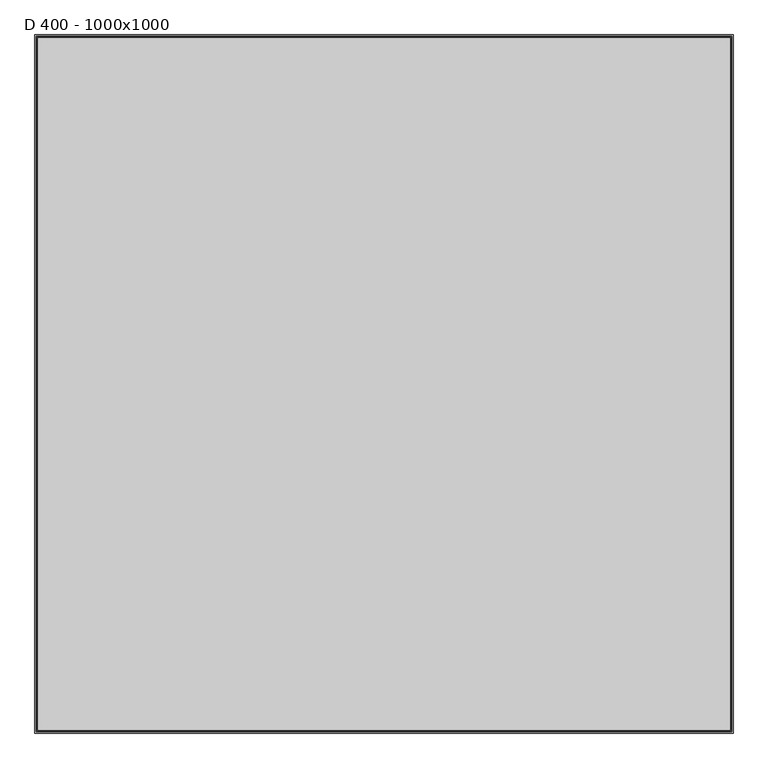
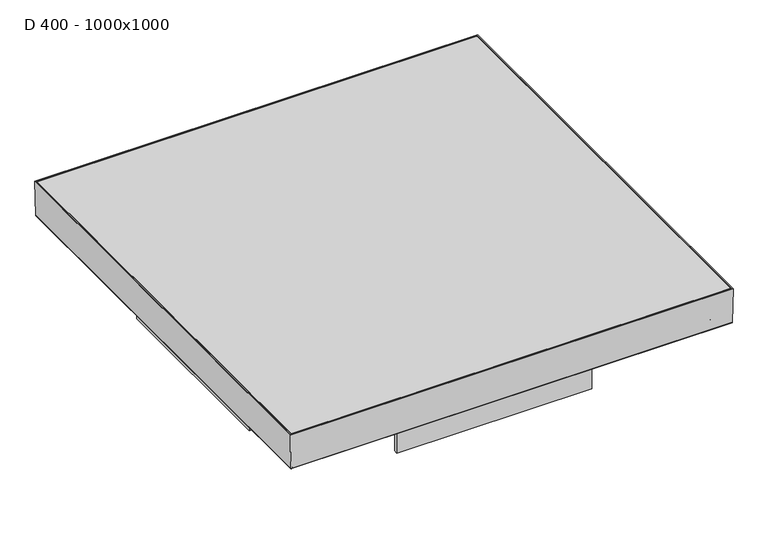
"""IFC4 building model written with IfcOpenShell, lengths in millimetres: proxy geometry, ME_ST_WPB_Access Cover PAVING GS 80_ACO : D 400 - 1000x1000."""

import ifcopenshell
import ifcopenshell.guid

model = None  # the IFC model being written
_history = None  # IfcOwnerHistory: only IFC2X3 demands one
_inside = {}  # id of a spatial element -> (the spatial element, [elements in it])
_under = {}  # id of a project, library or spatial element -> (it, [spatial elements below it])
_declared = {}  # id of a project -> (the project, [libraries it declares])
_typed = {}  # id of a type object -> (the type object, [elements of that type])
_made_of = {}  # id of a material, layer set ... -> (it, [elements and type objects made of it])


def new_model(schema):
    """Start an empty IFC model of exactly this schema.

    Asked for "IFC4X3", IfcOpenShell would pick the latest addendum, in which some entities
    have other attributes; the version numbers below select the first issue.
    IFC2X3 requires an IfcOwnerHistory on every rooted entity: one is made here for all.
    """
    global model, _history
    if schema == "IFC4X3":
        model = ifcopenshell.file(schema_version=(4, 3, 0, 0))
    else:
        model = ifcopenshell.file(schema=schema)
    _inside.clear()
    _under.clear()
    _declared.clear()
    _typed.clear()
    _made_of.clear()
    _history = None
    if model.schema == "IFC2X3":
        org = make("IfcOrganization", Name="unknown")
        user = make(
            "IfcPersonAndOrganization",
            ThePerson=make("IfcPerson", FamilyName="unknown"),
            TheOrganization=org,
        )
        app = make(
            "IfcApplication",
            ApplicationDeveloper=org,
            Version="unknown",
            ApplicationFullName="unknown",
            ApplicationIdentifier="unknown",
        )
        _history = make(
            "IfcOwnerHistory",
            OwningUser=user,
            OwningApplication=app,
            ChangeAction="ADDED",
            CreationDate=0,
        )
    return model


def make(cls, **values):
    """One entity of the class cls with the attributes given. An attribute that is None is left unset."""
    return model.create_entity(
        cls, **{name: value for name, value in values.items() if value is not None}
    )


def rooted(cls, **values):
    """An entity with a GlobalId (a new one), such as an element, a storey or a relation."""
    return make(cls, GlobalId=ifcopenshell.guid.new(), OwnerHistory=_history, **values)


def si_unit(unit_type, name, prefix=None):
    """IfcSIUnit, for example si_unit("LENGTHUNIT", "METRE", prefix="MILLI")."""
    return make("IfcSIUnit", UnitType=unit_type, Prefix=prefix, Name=name)


def assignment(units):
    """IfcUnitAssignment: the units of a project."""
    return None if units is None else make("IfcUnitAssignment", Units=units)


def point(xyz):
    """IfcCartesianPoint."""
    return None if xyz is None else make("IfcCartesianPoint", Coordinates=xyz)


def direction(xyz):
    """IfcDirection."""
    return None if xyz is None else make("IfcDirection", DirectionRatios=xyz)


def frame(location, z_axis=None, x_axis=None):
    """IfcAxis2Placement3D, a coordinate frame: its origin and axes. An axis left out is left unset."""
    return make(
        "IfcAxis2Placement3D",
        Location=point(location),
        Axis=direction(z_axis),
        RefDirection=direction(x_axis),
    )


def origin():
    """The frame at (0, 0, 0) with its axes left unset."""
    return frame((0.0, 0.0, 0.0))


def place(relative_to, where):
    """IfcLocalPlacement: puts the frame where relative to a parent placement (None: the world)."""
    return make(
        "IfcLocalPlacement", PlacementRelTo=relative_to, RelativePlacement=where
    )


def context(
    kind, dimensions, precision=None, world=None, true_north=None, identifier=None
):
    """IfcGeometricRepresentationContext, for example the 3D "Model" context."""
    return make(
        "IfcGeometricRepresentationContext",
        ContextIdentifier=identifier,
        ContextType=kind,
        CoordinateSpaceDimension=dimensions,
        Precision=precision,
        WorldCoordinateSystem=world,
        TrueNorth=true_north,
    )


def project(units=None, contexts=None):
    """IfcProject with its units and contexts."""
    return rooted(
        "IfcProject",
        Name="project",
        RepresentationContexts=contexts,
        UnitsInContext=assignment(units),
    )


def spatial(cls, under=None, at=None, **own):
    """A site, building, storey or space (cls), placed at a placement, below another one or the project."""
    s = rooted(cls, ObjectPlacement=at, **own)
    if under is not None:
        _under.setdefault(under.id(), (under, []))[1].append(s)
    return s


def polyline(points):
    """IfcPolyline through the points."""
    return make("IfcPolyline", Points=[point(p) for p in points])


def ellipse_curve(where, semi_axis1, semi_axis2):
    """IfcEllipse in the frame where."""
    return make(
        "IfcEllipse", Position=where, SemiAxis1=semi_axis1, SemiAxis2=semi_axis2
    )


def outline(outer, holes=None, kind="AREA"):
    """IfcArbitraryClosedProfileDef: a profile drawn as a closed curve; with holes, ...WithVoids."""
    if holes is None:
        return make("IfcArbitraryClosedProfileDef", ProfileType=kind, OuterCurve=outer)
    return make(
        "IfcArbitraryProfileDefWithVoids",
        ProfileType=kind,
        OuterCurve=outer,
        InnerCurves=holes,
    )


def extrude(swept, where, along, depth):
    """IfcExtrudedAreaSolid: the profile swept, set in the frame where, extruded along a direction by depth."""
    return make(
        "IfcExtrudedAreaSolid",
        SweptArea=swept,
        Position=where,
        ExtrudedDirection=direction(along),
        Depth=depth,
    )


def faces_of(points, faces, orient=None, outer=None):
    """IfcFace entities. A face is a list of loops; a loop is a list of indices into points, from 0.

    orient and outer hold one flag for each loop. By default every Orientation is true, the
    first loop of a face is its IfcFaceOuterBound and the others are IfcFaceBound.
    """
    made = []
    for i, loops in enumerate(faces):
        bounds = []
        for j, loop in enumerate(loops):
            is_outer = j == 0 if outer is None else outer[i][j]
            bounds.append(
                make(
                    "IfcFaceOuterBound" if is_outer else "IfcFaceBound",
                    Bound=make("IfcPolyLoop", Polygon=[points[k] for k in loop]),
                    Orientation=True if orient is None else orient[i][j],
                )
            )
        made.append(make("IfcFace", Bounds=bounds))
    return made


def faceted_brep(points, faces, orient=None, outer=None, voids=None):
    """IfcFacetedBrep: a solid bounded by flat faces; with voids (closed shells), ...WithVoids."""
    shared = [point(p) for p in points]
    hull = make("IfcClosedShell", CfsFaces=faces_of(shared, faces, orient, outer))
    if voids is None:
        return make("IfcFacetedBrep", Outer=hull)
    return make(
        "IfcFacetedBrepWithVoids",
        Outer=hull,
        Voids=[
            make(cls, CfsFaces=faces_of(shared, fs, o, b)) for cls, fs, o, b in voids
        ],
    )


def shape(context_of_items, identifier, shape_type, items):
    """IfcShapeRepresentation: the items that make up one representation, for example the "Body"."""
    return make(
        "IfcShapeRepresentation",
        ContextOfItems=context_of_items,
        RepresentationIdentifier=identifier,
        RepresentationType=shape_type,
        Items=items,
    )


def source(mapping_origin, context_of_items, identifier, shape_type, items):
    """IfcRepresentationMap: a shape defined once, which mapped items show again and again."""
    return make(
        "IfcRepresentationMap",
        MappingOrigin=mapping_origin,
        MappedRepresentation=shape(context_of_items, identifier, shape_type, items),
    )


def transform(
    local_origin,
    x_axis=None,
    y_axis=None,
    z_axis=None,
    scale=None,
    scale2=None,
    scale3=None,
    uniform=True,
):
    """IfcCartesianTransformationOperator3D, or its non-uniform kind. x_axis, y_axis, z_axis: its Axis1, 2, 3."""
    if uniform:
        return make(
            "IfcCartesianTransformationOperator3D",
            Axis1=direction(x_axis),
            Axis2=direction(y_axis),
            LocalOrigin=point(local_origin),
            Scale=scale,
            Axis3=direction(z_axis),
        )
    return make(
        "IfcCartesianTransformationOperator3DnonUniform",
        Axis1=direction(x_axis),
        Axis2=direction(y_axis),
        LocalOrigin=point(local_origin),
        Scale=scale,
        Axis3=direction(z_axis),
        Scale2=scale2,
        Scale3=scale3,
    )


def mapped(mapping_source, mapping_target):
    """IfcMappedItem: shows the shape of a source again, moved by a transform."""
    return make(
        "IfcMappedItem", MappingSource=mapping_source, MappingTarget=mapping_target
    )


def made_of(thing, what):
    """Note that an element or type object is made of a material, layer set ...; save() writes the relation."""
    if what is not None:
        _made_of.setdefault(what.id(), (what, []))[1].append(thing)
    return thing


def element(
    cls,
    number,
    at=None,
    inside=None,
    cuts=None,
    type_object=None,
    material=None,
    context=None,
    identifier="Body",
    shape_type=None,
    held_by="IfcProductDefinitionShape",
    body=None,
    shapes=None,
    **own,
):
    """One element of the class cls, such as IfcWall. Its Tag is "e" and its number.

    at: its placement. inside: the storey or other place that contains it. cuts: it is an
    opening in that element (IfcRelVoidsElement). A single representation is given by context,
    identifier, shape_type and body (its items); several are given by shapes. held_by: the class
    of the entity that holds the representations. save() writes the other relations.
    """
    e = rooted(cls, Tag="e%d" % number, ObjectPlacement=at, **own)
    if body is not None:
        shapes = [shape(context, identifier, shape_type, body)]
    if shapes is not None:
        e.Representation = make(held_by, Representations=shapes)
    if inside is not None:
        _inside.setdefault(inside.id(), (inside, []))[1].append(e)
    if cuts is not None:
        rooted(
            "IfcRelVoidsElement", RelatingBuildingElement=cuts, RelatedOpeningElement=e
        )
    if type_object is not None:
        _typed.setdefault(type_object.id(), (type_object, []))[1].append(e)
    return made_of(e, material)


def aggregate(whole, parts):
    """IfcRelAggregates: a whole, such as a stair, and the parts it consists of."""
    return rooted("IfcRelAggregates", RelatingObject=whole, RelatedObjects=parts)


def save(model, path):
    """Write the relations noted so far, then the file.

    IfcRelAggregates (storeys below a building ...), IfcRelContainedInSpatialStructure (elements
    in a storey), IfcRelDefinesByType, IfcRelAssociatesMaterial and IfcRelDeclares: one each for
    every whole, place, type object, material and project.
    """
    for whole, parts in _under.values():
        aggregate(whole, parts)
    for where, things in _inside.values():
        rooted(
            "IfcRelContainedInSpatialStructure",
            RelatedElements=things,
            RelatingStructure=where,
        )
    for kind, things in _typed.values():
        rooted("IfcRelDefinesByType", RelatedObjects=things, RelatingType=kind)
    for what, things in _made_of.values():
        rooted("IfcRelAssociatesMaterial", RelatedObjects=things, RelatingMaterial=what)
    for by, libraries in _declared.values():
        rooted("IfcRelDeclares", RelatingContext=by, RelatedDefinitions=libraries)
    model.write(path)


def plane_surface(at):
    """IfcPlane: the flat surface through the origin of the frame at, square to its z axis."""
    return make("IfcPlane", Position=at)


def cylinder_surface(at, radius):
    """IfcCylindricalSurface: all points at the distance radius from the z axis of the frame at."""
    return make("IfcCylindricalSurface", Position=at, Radius=radius)


def revolved_surface(curve, axis_point, axis_direction):
    """IfcSurfaceOfRevolution: the curve turned about the line through axis_point along axis_direction."""
    return make(
        "IfcSurfaceOfRevolution",
        SweptCurve=make("IfcArbitraryOpenProfileDef", ProfileType="CURVE", Curve=curve),
        AxisPosition=make("IfcAxis1Placement", Location=point(axis_point), Axis=direction(axis_direction)),
    )


def advanced_brep(points, edges, surfaces, faces):
    """IfcAdvancedBrep: a solid bounded by faces that lie on surfaces and meet in shared edges.

    An edge is (start, end): straight between two places in points (the first is 0);
    or (start, end, curve); or (start, end, curve, False) where it runs against its curve.
    A face is (place in surfaces, loops), or (place, loops, False) where it looks against
    its surface's normal. A loop lists edges by number (the first is 1), with a minus sign
    where the edge is run from its end to its start. The first loop is the outer one.
    """
    corners = [point(p) for p in points]
    vertices = [make("IfcVertexPoint", VertexGeometry=c) for c in corners]
    made = []
    for start, end, *more in edges:
        made.append(
            make(
                "IfcEdgeCurve",
                EdgeStart=vertices[start],
                EdgeEnd=vertices[end],
                EdgeGeometry=more[0] if more else make("IfcPolyline", Points=[corners[start], corners[end]]),
                SameSense=more[1] if len(more) > 1 else True,
            )
        )
    hull = []
    for where, loops, *sense in faces:
        bounds = []
        for j, loop in enumerate(loops):
            ring = [make("IfcOrientedEdge", EdgeElement=made[abs(k) - 1], Orientation=k > 0) for k in loop]
            bounds.append(
                make(
                    "IfcFaceOuterBound" if j == 0 else "IfcFaceBound",
                    Bound=make("IfcEdgeLoop", EdgeList=ring),
                    Orientation=True,
                )
            )
        hull.append(make("IfcAdvancedFace", Bounds=bounds, FaceSurface=surfaces[where], SameSense=sense[0] if sense else True))
    return make("IfcAdvancedBrep", Outer=make("IfcClosedShell", CfsFaces=hull))


def d_400_1000x1000_d10640b0(model_context):
    return source(origin(), model_context, "Body", "SolidModel", [
        extrude(outline(polyline([(563.9987812, 563.9987812), (563.9987812, -563.9987812), (-563.9987812, -563.9987812), (-563.9987812, 563.9987812), (563.9987812, 563.9987812)])), frame((0.0, 0.0, -5.0), z_axis=(0.0, 0.0, 1.0), x_axis=(1.0, 0.0, 0.0)), (0.0, 0.0, 1.0), 5.0),
        faceted_brep([(559.8786863, 559.8786863, -77.9987834), (-559.8786863, 559.8786863, -77.9987834), (-559.8786863, -559.8786863, -77.9987834), (559.8786863, -559.8786863, -77.9987834), (561.8100297, 561.8100297, -80.0), (561.8100297, -561.8100297, -80.0), (-561.8100297, -561.8100297, -80.0), (-561.8100297, 561.8100297, -80.0), (566.0, 566.0, 0.0), (566.0, -566.0, 0.0), (-566.0, -566.0, 0.0), (-566.0, 566.0, 0.0), (563.9987812, -563.9987812, 0.0), (563.9987812, 563.9987812, 0.0), (-563.9987812, -563.9987812, 0.0), (-563.9987812, 563.9987812, 0.0)], [[[0, 1, 2, 3]], [[4, 5, 6, 7]], [[4, 8, 9, 5]], [[5, 9, 10, 6]], [[6, 10, 11, 7]], [[8, 4, 7, 11]], [[0, 3, 12, 13]], [[3, 2, 14, 12]], [[2, 1, 15, 14]], [[1, 0, 13, 15]], [[9, 8, 11, 10], [13, 12, 14, 15]]]),
        extrude(outline(polyline([(-490.0, 250.0), (-480.0, 250.0), (-480.0, 5.0), (480.0, 5.0), (480.0, 250.0), (490.0, 250.0), (490.0, -250.0), (480.0, -250.0), (480.0, -5.0), (-480.0, -5.0), (-480.0, -250.0), (-490.0, -250.0), (-490.0, 250.0)])), frame((0.0, 0.0, -207.0), z_axis=(0.0, 0.0, 1.0), x_axis=(1.0, 0.0, 0.0)), (0.0, 0.0, 1.0), 103.0),
        extrude(outline(polyline([(250.0, 490.0), (250.0, 480.0), (5.0, 480.0), (5.0, -480.0), (250.0, -480.0), (250.0, -490.0), (-250.0, -490.0), (-250.0, -480.0), (-5.0, -480.0), (-5.0, 480.0), (-250.0, 480.0), (-250.0, 490.0), (250.0, 490.0)])), frame((0.0, 0.0, -207.0), z_axis=(0.0, 0.0, 1.0), x_axis=(1.0, 0.0, 0.0)), (0.0, 0.0, 1.0), 103.0),
        advanced_brep(
        [(565.0603915, 565.0603915, -93.0), (566.3814929, 566.3814929, -91.7973005), (566.3814929, -566.3814929, -91.7973005), (565.0603915, -565.0603915, -93.0), (532.491936, 532.491936, -93.5068236), (533.3495131, 533.3495131, -93.0), (533.3495131, -533.3495131, -93.0), (532.491936, -532.491936, -93.5068236), (522.5430631, 522.5430631, -103.4568727), (522.5430631, -522.5430631, -103.4568727), (521.5631773, 521.5631773, -104.0), (521.5631773, -521.5631773, -104.0), (500.0, 500.0, -102.0), (502.0, 502.0, -104.0), (502.0, -502.0, -104.0), (500.0, -500.0, -102.0), (500.0, 500.0, -91.0), (500.0, -500.0, -91.0), (502.0, 502.0, -91.0), (502.0, -502.0, -91.0), (502.0, -502.0, -100.1412819), (502.0, 502.0, -100.1412819), (503.5596496, 503.5596496, -102.0), (503.5596496, -503.5596496, -102.0), (521.6238392, 521.6238392, -101.5476755), (520.8710448, 520.8710448, -102.0), (520.8710448, -520.8710448, -102.0), (521.6238392, -521.6238392, -101.5476755), (531.7056833, 531.7056833, -91.4646396), (531.7056833, -531.7056833, -91.4646396), (532.6109139, 532.6109139, -90.9987834), (532.6109139, -532.6109139, -90.9987834), (564.414412, 564.414412, -89.9085487), (563.2898686, 563.2898686, -90.9987834), (563.2898686, -563.2898686, -90.9987834), (564.414412, -564.414412, -89.9085487), (565.9987388, 565.9987388, 0.0), (565.9987388, -565.9987388, 0.0), (567.9991024, 567.9991024, 0.0), (567.9991024, -567.9991024, 0.0), (-566.3814929, -566.3814929, -91.7973005), (-565.0603915, -565.0603915, -93.0), (-533.3495131, -533.3495131, -93.0), (-532.491936, -532.491936, -93.5068236), (-522.5430631, -522.5430631, -103.4568727), (-521.5631773, -521.5631773, -104.0), (-502.0, -502.0, -104.0), (-500.0, -500.0, -102.0), (-500.0, -500.0, -91.0), (-502.0, -502.0, -91.0), (-502.0, -502.0, -100.1412819), (-503.5596496, -503.5596496, -102.0), (-520.8710448, -520.8710448, -102.0), (-521.6238392, -521.6238392, -101.5476755), (-531.7056833, -531.7056833, -91.4646396), (-532.6109139, -532.6109139, -90.9987834), (-563.2898686, -563.2898686, -90.9987834), (-564.414412, -564.414412, -89.9085487), (-565.9987388, -565.9987388, 0.0), (-567.9991024, -567.9991024, 0.0), (-566.3814929, 566.3814929, -91.7973005), (-565.0603915, 565.0603915, -93.0), (-533.3495131, 533.3495131, -93.0), (-532.491936, 532.491936, -93.5068236), (-522.5430631, 522.5430631, -103.4568727), (-521.5631773, 521.5631773, -104.0), (-502.0, 502.0, -104.0), (-500.0, 500.0, -102.0), (-500.0, 500.0, -91.0), (-502.0, 502.0, -91.0), (-502.0, 502.0, -100.1412819), (-503.5596496, 503.5596496, -102.0), (-520.8710448, 520.8710448, -102.0), (-521.6238392, 521.6238392, -101.5476755), (-531.7056833, 531.7056833, -91.4646396), (-532.6109139, 532.6109139, -90.9987834), (-563.2898686, 563.2898686, -90.9987834), (-564.414412, 564.414412, -89.9085487), (-565.9987388, 565.9987388, 0.0), (-567.9991024, 567.9991024, 0.0)],
        [
            (0, 1, ellipse_curve(frame((565.0603915, 565.0603915, -91.6730704), z_axis=(0.7071067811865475, -0.7071067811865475, 0.0), x_axis=(0.7071067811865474, 0.7071067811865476, 0.0)), 1.8765619, 1.3269296)),
            (1, 2),
            (2, 3, ellipse_curve(frame((565.0603915, -565.0603915, -91.6730704), z_axis=(0.7071067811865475, 0.7071067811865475, 0.0), x_axis=(-0.7071067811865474, 0.7071067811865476, 0.0)), 1.8765619, 1.3269296)),
            (3, 0),
            (4, 5, ellipse_curve(frame((533.9062332, 533.9062332, -94.9209536), z_axis=(-0.7071067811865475, 0.7071067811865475, 0.0), x_axis=(-0.7071067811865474, -0.7071067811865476, 0.0)), 2.8284271, 2.0)),
            (5, 6),
            (6, 7, ellipse_curve(frame((533.9062332, -533.9062332, -94.9209536), z_axis=(-0.7071067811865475, -0.7071067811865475, 0.0), x_axis=(0.7071067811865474, -0.7071067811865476, 0.0)), 2.8284271, 2.0)),
            (7, 4),
            (8, 4),
            (7, 9),
            (9, 8),
            (10, 8, ellipse_curve(frame((520.0169048, 520.0169048, -100.0547885), z_axis=(0.7071067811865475, -0.7071067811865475, 0.0), x_axis=(0.7071067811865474, 0.7071067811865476, 0.0)), 5.9926042, 4.237411)),
            (9, 11, ellipse_curve(frame((520.0169048, -520.0169048, -100.0547885), z_axis=(0.7071067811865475, 0.7071067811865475, 0.0), x_axis=(-0.7071067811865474, 0.7071067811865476, 0.0)), 5.9926042, 4.237411)),
            (11, 10),
            (12, 13, ellipse_curve(frame((503.5491099, 503.5491099, -100.4508901), z_axis=(0.7071067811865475, -0.7071067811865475, 0.0), x_axis=(0.7071067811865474, 0.7071067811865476, 0.0)), 5.4764811, 3.872457)),
            (13, 14),
            (14, 15, ellipse_curve(frame((503.5491099, -503.5491099, -100.4508901), z_axis=(0.7071067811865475, 0.7071067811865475, 0.0), x_axis=(-0.7071067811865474, 0.7071067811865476, 0.0)), 5.4764811, 3.872457)),
            (15, 12),
            (16, 12),
            (15, 17),
            (17, 16),
            (18, 19),
            (19, 20),
            (20, 21),
            (21, 18),
            (22, 21, ellipse_curve(frame((503.9978512, 503.9978512, -100.0485955), z_axis=(-0.7071067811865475, 0.7071067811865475, 0.0), x_axis=(-0.7071067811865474, -0.7071067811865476, 0.0)), 2.8284271, 2.0)),
            (20, 23, ellipse_curve(frame((503.9978512, -503.9978512, -100.0485955), z_axis=(-0.7071067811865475, -0.7071067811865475, 0.0), x_axis=(0.7071067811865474, -0.7071067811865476, 0.0)), 2.8284271, 2.0)),
            (23, 22),
            (24, 25, ellipse_curve(frame((520.2425005, 520.2425005, -100.1013342), z_axis=(-0.7071067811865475, 0.7071067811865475, 0.0), x_axis=(-0.7071067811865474, -0.7071067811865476, 0.0)), 2.8284271, 2.0)),
            (25, 26),
            (26, 27, ellipse_curve(frame((520.2425005, -520.2425005, -100.1013342), z_axis=(-0.7071067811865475, -0.7071067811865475, 0.0), x_axis=(0.7071067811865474, -0.7071067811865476, 0.0)), 2.8284271, 2.0)),
            (27, 24),
            (28, 24),
            (27, 29),
            (29, 28),
            (30, 28, ellipse_curve(frame((532.9486156, 532.9486156, -92.7674195), z_axis=(0.7071067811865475, -0.7071067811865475, 0.0), x_axis=(0.7071067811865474, 0.7071067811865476, 0.0)), 2.5464155, 1.8005877)),
            (29, 31, ellipse_curve(frame((532.9486156, -532.9486156, -92.7674195), z_axis=(0.7071067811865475, 0.7071067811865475, 0.0), x_axis=(-0.7071067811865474, 0.7071067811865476, 0.0)), 2.5464155, 1.8005877)),
            (31, 30),
            (32, 33, ellipse_curve(frame((563.125281, 563.125281, -89.7039331), z_axis=(-0.7071067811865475, 0.7071067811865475, 0.0), x_axis=(-0.7071067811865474, -0.7071067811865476, 0.0)), 1.8459287, 1.3052687)),
            (33, 34),
            (34, 35, ellipse_curve(frame((563.125281, -563.125281, -89.7039331), z_axis=(-0.7071067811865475, -0.7071067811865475, 0.0), x_axis=(0.7071067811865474, -0.7071067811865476, 0.0)), 1.8459287, 1.3052687)),
            (35, 32),
            (36, 32),
            (35, 37),
            (37, 36),
            (1, 38),
            (38, 39),
            (39, 2),
            (2, 40),
            (40, 41, ellipse_curve(frame((-565.0603915, -565.0603915, -91.6730704), z_axis=(0.7071067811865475, -0.7071067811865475, 0.0), x_axis=(0.7071067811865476, 0.7071067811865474, 0.0)), 1.8765619, 1.3269296)),
            (41, 3),
            (6, 42),
            (42, 43, ellipse_curve(frame((-533.9062332, -533.9062332, -94.9209536), z_axis=(-0.7071067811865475, 0.7071067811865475, 0.0), x_axis=(-0.7071067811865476, -0.7071067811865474, 0.0)), 2.8284271, 2.0)),
            (43, 7),
            (43, 44),
            (44, 9),
            (44, 45, ellipse_curve(frame((-520.0169048, -520.0169048, -100.0547885), z_axis=(0.7071067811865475, -0.7071067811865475, 0.0), x_axis=(0.7071067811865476, 0.7071067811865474, 0.0)), 5.9926042, 4.237411)),
            (45, 11),
            (14, 46),
            (46, 47, ellipse_curve(frame((-503.5491099, -503.5491099, -100.4508901), z_axis=(0.7071067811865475, -0.7071067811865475, 0.0), x_axis=(0.7071067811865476, 0.7071067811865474, 0.0)), 5.4764811, 3.872457)),
            (47, 15),
            (47, 48),
            (48, 17),
            (19, 49),
            (49, 50),
            (50, 20),
            (50, 51, ellipse_curve(frame((-503.9978512, -503.9978512, -100.0485955), z_axis=(-0.7071067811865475, 0.7071067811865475, 0.0), x_axis=(-0.7071067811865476, -0.7071067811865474, 0.0)), 2.8284271, 2.0)),
            (51, 23),
            (26, 52),
            (52, 53, ellipse_curve(frame((-520.2425005, -520.2425005, -100.1013342), z_axis=(-0.7071067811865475, 0.7071067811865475, 0.0), x_axis=(-0.7071067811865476, -0.7071067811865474, 0.0)), 2.8284271, 2.0)),
            (53, 27),
            (53, 54),
            (54, 29),
            (54, 55, ellipse_curve(frame((-532.9486156, -532.9486156, -92.7674195), z_axis=(0.7071067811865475, -0.7071067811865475, 0.0), x_axis=(0.7071067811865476, 0.7071067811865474, 0.0)), 2.5464155, 1.8005877)),
            (55, 31),
            (34, 56),
            (56, 57, ellipse_curve(frame((-563.125281, -563.125281, -89.7039331), z_axis=(-0.7071067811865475, 0.7071067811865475, 0.0), x_axis=(-0.7071067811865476, -0.7071067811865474, 0.0)), 1.8459287, 1.3052687)),
            (57, 35),
            (57, 58),
            (58, 37),
            (39, 59),
            (59, 40),
            (40, 60),
            (60, 61, ellipse_curve(frame((-565.0603915, 565.0603915, -91.6730704), z_axis=(-0.7071067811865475, -0.7071067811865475, 0.0), x_axis=(0.7071067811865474, -0.7071067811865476, 0.0)), 1.8765619, 1.3269296)),
            (61, 41),
            (42, 62),
            (62, 63, ellipse_curve(frame((-533.9062332, 533.9062332, -94.9209536), z_axis=(0.7071067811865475, 0.7071067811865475, 0.0), x_axis=(-0.7071067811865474, 0.7071067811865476, 0.0)), 2.8284271, 2.0)),
            (63, 43),
            (63, 64),
            (64, 44),
            (64, 65, ellipse_curve(frame((-520.0169048, 520.0169048, -100.0547885), z_axis=(-0.7071067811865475, -0.7071067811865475, 0.0), x_axis=(0.7071067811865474, -0.7071067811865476, 0.0)), 5.9926042, 4.237411)),
            (65, 45),
            (46, 66),
            (66, 67, ellipse_curve(frame((-503.5491099, 503.5491099, -100.4508901), z_axis=(-0.7071067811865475, -0.7071067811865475, 0.0), x_axis=(0.7071067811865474, -0.7071067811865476, 0.0)), 5.4764811, 3.872457)),
            (67, 47),
            (67, 68),
            (68, 48),
            (49, 69),
            (69, 70),
            (70, 50),
            (70, 71, ellipse_curve(frame((-503.9978512, 503.9978512, -100.0485955), z_axis=(0.7071067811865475, 0.7071067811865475, 0.0), x_axis=(-0.7071067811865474, 0.7071067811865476, 0.0)), 2.8284271, 2.0)),
            (71, 51),
            (52, 72),
            (72, 73, ellipse_curve(frame((-520.2425005, 520.2425005, -100.1013342), z_axis=(0.7071067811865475, 0.7071067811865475, 0.0), x_axis=(-0.7071067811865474, 0.7071067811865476, 0.0)), 2.8284271, 2.0)),
            (73, 53),
            (73, 74),
            (74, 54),
            (74, 75, ellipse_curve(frame((-532.9486156, 532.9486156, -92.7674195), z_axis=(-0.7071067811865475, -0.7071067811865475, 0.0), x_axis=(0.7071067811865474, -0.7071067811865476, 0.0)), 2.5464155, 1.8005877)),
            (75, 55),
            (56, 76),
            (76, 77, ellipse_curve(frame((-563.125281, 563.125281, -89.7039331), z_axis=(0.7071067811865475, 0.7071067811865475, 0.0), x_axis=(-0.7071067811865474, 0.7071067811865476, 0.0)), 1.8459287, 1.3052687)),
            (77, 57),
            (77, 78),
            (78, 58),
            (59, 79),
            (79, 60),
            (60, 1),
            (0, 61),
            (5, 62),
            (4, 63),
            (8, 64),
            (10, 65),
            (13, 66),
            (12, 67),
            (16, 68),
            (18, 69),
            (21, 70),
            (22, 71),
            (25, 72),
            (24, 73),
            (28, 74),
            (30, 75),
            (33, 76),
            (32, 77),
            (36, 78),
            (38, 79),
        ],
        [
            cylinder_surface(frame((565.0603915, 568.0, -91.6730704), z_axis=(0.0, 1.0, 0.0), x_axis=(1.0, 0.0, 0.0)), 1.3269296),
            revolved_surface(polyline([(535.9062332, -535.9062331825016, -94.9209536), (535.9062332, 535.9062331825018, -94.9209536)]), (533.9062332, 568.0, -94.9209536), (0.0, -1.0, 0.0)),
            plane_surface(frame((532.491936, 532.491936, -93.5068236), z_axis=(0.7071485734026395, 0.0, -0.7070649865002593), x_axis=(0.0, -1.0, 0.0))),
            cylinder_surface(frame((520.0169048, 568.0, -100.0547885), z_axis=(0.0, 1.0, 0.0), x_axis=(1.0, 0.0, 0.0)), 4.237411),
            cylinder_surface(frame((503.5491099, 568.0, -100.4508901), z_axis=(0.0, 1.0, 0.0), x_axis=(1.0, 0.0, 0.0)), 3.872457),
            plane_surface(frame((500.0, 500.0, -102.0), z_axis=(-1.0, 0.0, 0.0), x_axis=(0.0, -1.0, 0.0))),
            plane_surface(frame((502.0, 502.0, -93.0), z_axis=(1.0, 0.0, 0.0), x_axis=(0.0, -1.0, 0.0))),
            revolved_surface(polyline([(505.9978512, -505.9978511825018, -100.0485955), (505.9978512, 505.9978511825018, -100.0485955)]), (503.9978512, 568.0, -100.0485955), (0.0, -1.0, 0.0)),
            revolved_surface(polyline([(522.2425005, -522.2425004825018, -100.1013342), (522.2425005, 522.2425004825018, -100.1013342)]), (520.2425005, 568.0, -100.1013342), (0.0, -1.0, 0.0)),
            plane_surface(frame((521.6238392, 521.6238392, -101.5476755), z_axis=(-0.7071485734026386, 0.0, 0.7070649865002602), x_axis=(0.0, -1.0, 0.0))),
            cylinder_surface(frame((532.9486156, 568.0, -92.7674195), z_axis=(0.0, 1.0, 0.0), x_axis=(1.0, 0.0, 0.0)), 1.8005877),
            revolved_surface(polyline([(564.4305497, -564.430549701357, -89.7039331), (564.4305497, 564.4305497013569, -89.7039331)]), (563.125281, 568.0, -89.7039331), (0.0, -1.0, 0.0)),
            plane_surface(frame((564.414412, 564.414412, -89.9085487), z_axis=(-0.9998447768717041, 0.0, 0.017618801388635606), x_axis=(0.0, -1.0, 0.0))),
            plane_surface(frame((567.9991024, 567.9991024, 0.0), z_axis=(0.9998447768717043, 0.0, -0.017618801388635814), x_axis=(0.0, -1.0, 0.0))),
            cylinder_surface(frame((568.0, -565.0603915, -91.6730704), z_axis=(1.0, 0.0, 0.0), x_axis=(0.0, -1.0, 0.0)), 1.3269296),
            revolved_surface(polyline([(-535.9062331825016, -535.9062332, -94.9209536), (535.9062331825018, -535.9062332, -94.9209536)]), (568.0, -533.9062332, -94.9209536), (-1.0, 0.0, 0.0)),
            plane_surface(frame((532.491936, -532.491936, -93.5068236), z_axis=(0.0, -0.7071485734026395, -0.7070649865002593), x_axis=(-1.0, 0.0, 0.0))),
            cylinder_surface(frame((568.0, -520.0169048, -100.0547885), z_axis=(1.0, 0.0, 0.0), x_axis=(0.0, -1.0, 0.0)), 4.237411),
            cylinder_surface(frame((568.0, -503.5491099, -100.4508901), z_axis=(1.0, 0.0, 0.0), x_axis=(0.0, -1.0, 0.0)), 3.872457),
            plane_surface(frame((500.0, -500.0, -102.0), z_axis=(0.0, 1.0, 0.0), x_axis=(-1.0, 0.0, 0.0))),
            plane_surface(frame((502.0, -502.0, -93.0), z_axis=(0.0, -1.0, 0.0), x_axis=(-1.0, 0.0, 0.0))),
            revolved_surface(polyline([(-505.9978511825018, -505.9978512, -100.0485955), (505.9978511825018, -505.9978512, -100.0485955)]), (568.0, -503.9978512, -100.0485955), (-1.0, 0.0, 0.0)),
            revolved_surface(polyline([(-522.2425004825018, -522.2425005, -100.1013342), (522.2425004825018, -522.2425005, -100.1013342)]), (568.0, -520.2425005, -100.1013342), (-1.0, 0.0, 0.0)),
            plane_surface(frame((521.6238392, -521.6238392, -101.5476755), z_axis=(0.0, 0.7071485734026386, 0.7070649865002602), x_axis=(-1.0, 0.0, 0.0))),
            cylinder_surface(frame((568.0, -532.9486156, -92.7674195), z_axis=(1.0, 0.0, 0.0), x_axis=(0.0, -1.0, 0.0)), 1.8005877),
            revolved_surface(polyline([(-564.430549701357, -564.4305497, -89.7039331), (564.4305497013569, -564.4305497, -89.7039331)]), (568.0, -563.125281, -89.7039331), (-1.0, 0.0, 0.0)),
            plane_surface(frame((564.414412, -564.414412, -89.9085487), z_axis=(0.0, 0.9998447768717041, 0.017618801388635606), x_axis=(-1.0, 0.0, 0.0))),
            plane_surface(frame((567.9991024, -567.9991024, 0.0), z_axis=(0.0, -0.9998447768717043, -0.017618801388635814), x_axis=(-1.0, 0.0, 0.0))),
            cylinder_surface(frame((-565.0603915, -568.0, -91.6730704), z_axis=(0.0, -1.0, 0.0), x_axis=(-1.0, 0.0, 0.0)), 1.3269296),
            revolved_surface(polyline([(-535.9062332, 535.9062331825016, -94.9209536), (-535.9062332, -535.9062331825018, -94.9209536)]), (-533.9062332, -568.0, -94.9209536), (0.0, 1.0, 0.0)),
            plane_surface(frame((-532.491936, -532.491936, -93.5068236), z_axis=(-0.7071485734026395, 0.0, -0.7070649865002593), x_axis=(0.0, 1.0, 0.0))),
            cylinder_surface(frame((-520.0169048, -568.0, -100.0547885), z_axis=(0.0, -1.0, 0.0), x_axis=(-1.0, 0.0, 0.0)), 4.237411),
            cylinder_surface(frame((-503.5491099, -568.0, -100.4508901), z_axis=(0.0, -1.0, 0.0), x_axis=(-1.0, 0.0, 0.0)), 3.872457),
            plane_surface(frame((-500.0, -500.0, -102.0), z_axis=(1.0, 0.0, 0.0), x_axis=(0.0, 1.0, 0.0))),
            plane_surface(frame((-502.0, -502.0, -93.0), z_axis=(-1.0, 0.0, 0.0), x_axis=(0.0, 1.0, 0.0))),
            revolved_surface(polyline([(-505.9978512, 505.9978511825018, -100.0485955), (-505.9978512, -505.9978511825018, -100.0485955)]), (-503.9978512, -568.0, -100.0485955), (0.0, 1.0, 0.0)),
            revolved_surface(polyline([(-522.2425005, 522.2425004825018, -100.1013342), (-522.2425005, -522.2425004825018, -100.1013342)]), (-520.2425005, -568.0, -100.1013342), (0.0, 1.0, 0.0)),
            plane_surface(frame((-521.6238392, -521.6238392, -101.5476755), z_axis=(0.7071485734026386, 0.0, 0.7070649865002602), x_axis=(0.0, 1.0, 0.0))),
            cylinder_surface(frame((-532.9486156, -568.0, -92.7674195), z_axis=(0.0, -1.0, 0.0), x_axis=(-1.0, 0.0, 0.0)), 1.8005877),
            revolved_surface(polyline([(-564.4305497, 564.430549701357, -89.7039331), (-564.4305497, -564.4305497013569, -89.7039331)]), (-563.125281, -568.0, -89.7039331), (0.0, 1.0, 0.0)),
            plane_surface(frame((-564.414412, -564.414412, -89.9085487), z_axis=(0.9998447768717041, 0.0, 0.017618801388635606), x_axis=(0.0, 1.0, 0.0))),
            plane_surface(frame((-567.9991024, -567.9991024, 0.0), z_axis=(-0.9998447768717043, 0.0, -0.017618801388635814), x_axis=(0.0, 1.0, 0.0))),
            cylinder_surface(frame((-568.0, 565.0603915, -91.6730704), z_axis=(-1.0, 0.0, 0.0), x_axis=(0.0, 1.0, 0.0)), 1.3269296),
            plane_surface(frame((-565.0603915, 565.0603915, -93.0), z_axis=(0.0, 0.0, -1.0), x_axis=(1.0, 0.0, 0.0))),
            revolved_surface(polyline([(535.9062331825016, 535.9062332, -94.9209536), (-535.9062331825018, 535.9062332, -94.9209536)]), (-568.0, 533.9062332, -94.9209536), (1.0, 0.0, 0.0)),
            plane_surface(frame((-532.491936, 532.491936, -93.5068236), z_axis=(0.0, 0.7071485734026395, -0.7070649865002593), x_axis=(1.0, 0.0, 0.0))),
            cylinder_surface(frame((-568.0, 520.0169048, -100.0547885), z_axis=(-1.0, 0.0, 0.0), x_axis=(0.0, 1.0, 0.0)), 4.237411),
            plane_surface(frame((-521.5631773, 521.5631773, -104.0), z_axis=(0.0, 0.0, -1.0), x_axis=(1.0, 0.0, 0.0))),
            cylinder_surface(frame((-568.0, 503.5491099, -100.4508901), z_axis=(-1.0, 0.0, 0.0), x_axis=(0.0, 1.0, 0.0)), 3.872457),
            plane_surface(frame((-500.0, 500.0, -102.0), z_axis=(0.0, -1.0, 0.0), x_axis=(1.0, 0.0, 0.0))),
            plane_surface(frame((-500.0, 500.0, -91.0), z_axis=(0.0, 0.0, 1.0), x_axis=(1.0, 0.0, 0.0))),
            plane_surface(frame((-502.0, 502.0, -93.0), z_axis=(0.0, 1.0, 0.0), x_axis=(1.0, 0.0, 0.0))),
            revolved_surface(polyline([(505.9978511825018, 505.9978512, -100.0485955), (-505.9978511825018, 505.9978512, -100.0485955)]), (-568.0, 503.9978512, -100.0485955), (1.0, 0.0, 0.0)),
            plane_surface(frame((-503.5596496, 503.5596496, -102.0), z_axis=(0.0, 0.0, 1.0), x_axis=(1.0, 0.0, 0.0))),
            revolved_surface(polyline([(522.2425004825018, 522.2425005, -100.1013342), (-522.2425004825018, 522.2425005, -100.1013342)]), (-568.0, 520.2425005, -100.1013342), (1.0, 0.0, 0.0)),
            plane_surface(frame((-521.6238392, 521.6238392, -101.5476755), z_axis=(0.0, -0.7071485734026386, 0.7070649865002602), x_axis=(1.0, 0.0, 0.0))),
            cylinder_surface(frame((-568.0, 532.9486156, -92.7674195), z_axis=(-1.0, 0.0, 0.0), x_axis=(0.0, 1.0, 0.0)), 1.8005877),
            plane_surface(frame((-532.6109139, 532.6109139, -90.9987834), z_axis=(0.0, 0.0, 1.0), x_axis=(1.0, 0.0, 0.0))),
            revolved_surface(polyline([(564.430549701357, 564.4305497, -89.7039331), (-564.4305497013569, 564.4305497, -89.7039331)]), (-568.0, 563.125281, -89.7039331), (1.0, 0.0, 0.0)),
            plane_surface(frame((-564.414412, 564.414412, -89.9085487), z_axis=(0.0, -0.9998447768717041, 0.017618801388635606), x_axis=(1.0, 0.0, 0.0))),
            plane_surface(frame((-565.9987388, 565.9987388, 0.0), z_axis=(0.0, 0.0, 1.0), x_axis=(1.0, 0.0, 0.0))),
            plane_surface(frame((-567.9991024, 567.9991024, 0.0), z_axis=(0.0, 0.9998447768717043, -0.017618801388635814), x_axis=(1.0, 0.0, 0.0))),
        ],
        [
            (0, [[1, 2, 3, 4]]),
            (1, [[5, 6, 7, 8]]),
            (2, [[9, -8, 10, 11]]),
            (3, [[12, -11, 13, 14]]),
            (4, [[15, 16, 17, 18]]),
            (5, [[19, -18, 20, 21]]),
            (6, [[22, 23, 24, 25]]),
            (7, [[26, -24, 27, 28]]),
            (8, [[29, 30, 31, 32]]),
            (9, [[33, -32, 34, 35]]),
            (10, [[36, -35, 37, 38]]),
            (11, [[39, 40, 41, 42]]),
            (12, [[43, -42, 44, 45]]),
            (13, [[46, 47, 48, -2]]),
            (14, [[-3, 49, 50, 51]]),
            (15, [[-7, 52, 53, 54]]),
            (16, [[-10, -54, 55, 56]]),
            (17, [[-13, -56, 57, 58]]),
            (18, [[-17, 59, 60, 61]]),
            (19, [[-20, -61, 62, 63]]),
            (20, [[-23, 64, 65, 66]]),
            (21, [[-27, -66, 67, 68]]),
            (22, [[-31, 69, 70, 71]]),
            (23, [[-34, -71, 72, 73]]),
            (24, [[-37, -73, 74, 75]]),
            (25, [[-41, 76, 77, 78]]),
            (26, [[-44, -78, 79, 80]]),
            (27, [[-48, 81, 82, -49]]),
            (28, [[-50, 83, 84, 85]]),
            (29, [[-53, 86, 87, 88]]),
            (30, [[-55, -88, 89, 90]]),
            (31, [[-57, -90, 91, 92]]),
            (32, [[-60, 93, 94, 95]]),
            (33, [[-62, -95, 96, 97]]),
            (34, [[-65, 98, 99, 100]]),
            (35, [[-67, -100, 101, 102]]),
            (36, [[-70, 103, 104, 105]]),
            (37, [[-72, -105, 106, 107]]),
            (38, [[-74, -107, 108, 109]]),
            (39, [[-77, 110, 111, 112]]),
            (40, [[-79, -112, 113, 114]]),
            (41, [[-82, 115, 116, -83]]),
            (42, [[-84, 117, -1, 118]]),
            (43, [[-51, -85, -118, -4], [119, -86, -52, -6]]),
            (44, [[-87, -119, -5, 120]]),
            (45, [[-89, -120, -9, 121]]),
            (46, [[-91, -121, -12, 122]]),
            (47, [[-58, -92, -122, -14], [123, -93, -59, -16]]),
            (48, [[-94, -123, -15, 124]]),
            (49, [[-96, -124, -19, 125]]),
            (50, [[126, -98, -64, -22], [-63, -97, -125, -21]]),
            (51, [[-99, -126, -25, 127]]),
            (52, [[-101, -127, -26, 128]]),
            (53, [[129, -103, -69, -30], [-68, -102, -128, -28]]),
            (54, [[-104, -129, -29, 130]]),
            (55, [[-106, -130, -33, 131]]),
            (56, [[-108, -131, -36, 132]]),
            (57, [[133, -110, -76, -40], [-75, -109, -132, -38]]),
            (58, [[-111, -133, -39, 134]]),
            (59, [[-113, -134, -43, 135]]),
            (60, [[136, -115, -81, -47], [-80, -114, -135, -45]]),
            (61, [[-116, -136, -46, -117]]),
        ],
    ),
    ])


if __name__ == "__main__":
    model = new_model("IFC4")
    model_context = context("Model", 3, world=origin())
    ifc_project = project(units=[si_unit("LENGTHUNIT", "METRE", prefix="MILLI")], contexts=[model_context])
    site = spatial("IfcSite", under=ifc_project)
    building = spatial("IfcBuilding", under=site)
    placement = place(None, origin())
    d_400_1000x1000_shape = d_400_1000x1000_d10640b0(model_context)
    element("IfcBuildingElementProxy", 1, Name="ME_ST_WPB_Access Cover PAVING GS 80_ACO : D 400 - 1000x1000", ObjectType="ME_ST_WPB_Access Cover PAVING GS 80_ACO : D 400 - 1000x1000", at=placement, inside=building, context=model_context, shape_type="MappedRepresentation", body=[
        mapped(d_400_1000x1000_shape, transform((0.0, 0.0, 0.0), x_axis=(1.0, 0.0, 0.0), y_axis=(0.0, 1.0, 0.0), z_axis=(0.0, 0.0, 1.0))),
    ])
    save(model, "model.ifc")
